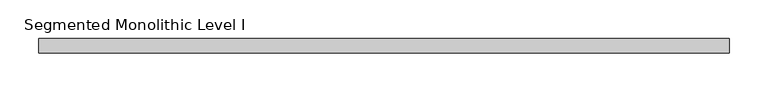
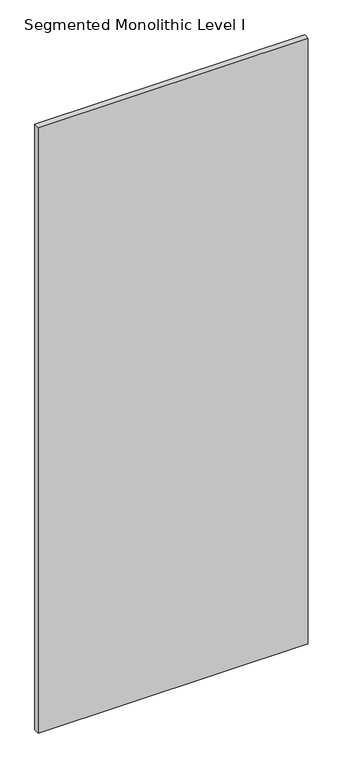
"""IFC4 building model written with IfcOpenShell, lengths in millimetres: proxy geometry, Panel-Fascia-Teknion-Altos-Standard : Segmented Monolithic Level I."""

from ifc_helpers import new_model, si_unit, frame, origin, place, context, project, spatial, polyline, outline, extrude, source, transform, mapped, element, save


def segmented_monolithic_level_i_12355878(model_context):
    return source(origin(), model_context, "Body", "SweptSolid", [
        extrude(outline(polyline([(447.0356344, 9.525), (447.0356344, -9.525), (-447.0356344, -9.525), (-447.0356344, 9.525), (447.0356344, 9.525)])), frame((0.0, 0.0, 3.175), z_axis=(0.0, 0.0, 1.0), x_axis=(1.0, 0.0, 0.0)), (0.0, 0.0, 1.0), 2117.725),
    ])


if __name__ == "__main__":
    model = new_model("IFC4")
    model_context = context("Model", 3, world=origin())
    ifc_project = project(units=[si_unit("LENGTHUNIT", "METRE", prefix="MILLI")], contexts=[model_context])
    site = spatial("IfcSite", under=ifc_project)
    building = spatial("IfcBuilding", under=site)
    placement = place(None, origin())
    segmented_monolithic_level_i_shape = segmented_monolithic_level_i_12355878(model_context)
    element("IfcBuildingElementProxy", 1, Name="Panel-Fascia-Teknion-Altos-Standard : Segmented Monolithic Level I", ObjectType="Panel-Fascia-Teknion-Altos-Standard : Segmented Monolithic Level I", at=placement, inside=building, context=model_context, shape_type="MappedRepresentation", body=[
        mapped(segmented_monolithic_level_i_shape, transform((0.0, 0.0, 0.0), x_axis=(1.0, 0.0, 0.0), y_axis=(0.0, 1.0, 0.0), z_axis=(0.0, 0.0, 1.0))),
    ])
    save(model, "model.ifc")
